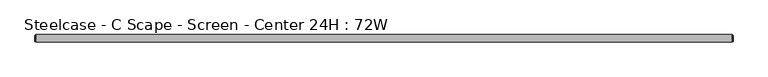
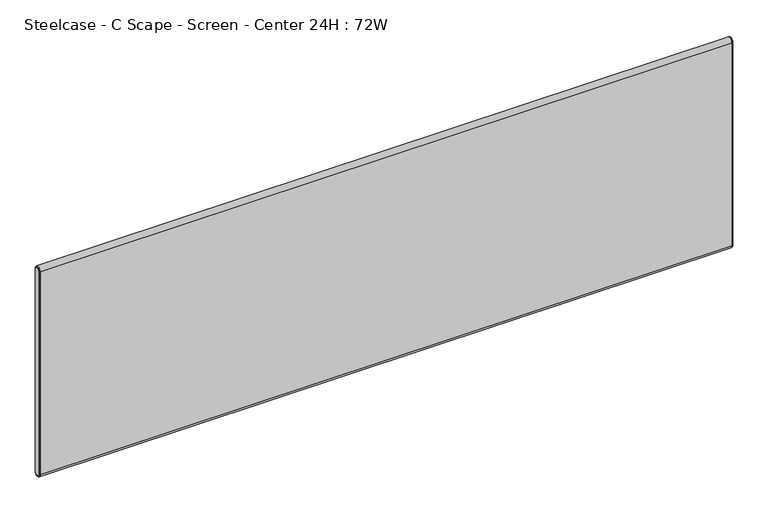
"""IFC4 building model written with IfcOpenShell, lengths in millimetres: furniture geometry, Steelcase - C Scape - Screen - Center 24H : 72W."""

from ifc_helpers import new_model, si_unit, point, frame, frame_2d, origin, place, context, project, spatial, polyline, circle_curve, ellipse_curve, trimmed, segment, composite_curve, outline, extrude, source, transform, mapped, element, save
from ifc_brep_helpers import plane_surface, cylinder_surface, revolved_surface, advanced_brep


def steelcase_c_scape_screen_center_24h_72w_7581a1cd(model_context):
    return source(origin(), model_context, "Body", "SolidModel", [
        advanced_brep(
        [(1825.2486613, -9.525, 1298.067), (1825.2486613, 9.525, 1298.067), (1825.2486613, 9.525, 732.9169758), (1825.2486613, -9.525, 732.9169758), (1828.0426613, 7.4929583, 1298.067), (1828.0426613, -7.4929583, 1298.067), (1828.0426613, -7.4929583, 732.9169758), (1828.0426613, 7.4929583, 732.9169758), (1827.5346545, -8.0009651, 1298.067), (1827.5346545, 8.0009651, 1298.067), (1826.2646613, 8.0009651, 1298.067), (1826.2646613, -8.0009651, 1298.067), (1826.2646613, -8.8204932, 1298.067), (1826.2646613, 8.8204932, 1298.067), (1826.2646613, -8.0009651, 732.9169758), (1827.5346545, -8.0009651, 732.9169758), (1826.2646613, -8.8204932, 732.9169758), (1826.2646613, 8.0009651, 732.9169758), (1827.5346545, 8.0009651, 732.9169758), (1826.2646613, 8.8204932, 732.9169758)],
        [
            (0, 1, circle_curve(frame((1825.2486613, 0.0, 1298.067), z_axis=(-1.0, 0.0, 0.0), x_axis=(0.0, 1.0, 0.0)), 9.525)),
            (1, 2),
            (2, 3, circle_curve(frame((1825.2486613, 0.0, 732.9169758), z_axis=(-1.0, 0.0, 0.0), x_axis=(0.0, -1.0, 0.0)), 9.525)),
            (3, 0),
            (4, 5, circle_curve(frame((1828.0426613, 0.0, 1298.067), z_axis=(1.0, 0.0, 0.0), x_axis=(0.0, 1.0, 0.0)), 7.4929583)),
            (5, 6),
            (6, 7, circle_curve(frame((1828.0426613, 0.0, 732.9169758), z_axis=(1.0, 0.0, 0.0), x_axis=(0.0, -1.0, 0.0)), 7.4929583)),
            (7, 4),
            (8, 9, circle_curve(frame((1827.5346545, 0.0, 1298.067), z_axis=(-1.0, 0.0, 0.0), x_axis=(0.0, 1.0, 0.0)), 8.0009651)),
            (9, 10),
            (10, 11, circle_curve(frame((1826.2646613, 0.0, 1298.067), z_axis=(1.0, 0.0, 0.0), x_axis=(0.0, 1.0, 0.0)), 8.0009651)),
            (11, 8),
            (8, 5, circle_curve(frame((1827.5346545, -7.4929583, 1298.067), z_axis=(0.0, 0.0, 1.0), x_axis=(0.0, -1.0, 0.0)), 0.5080068)),
            (4, 9, circle_curve(frame((1827.5346545, 7.4929583, 1298.067), z_axis=(0.0, 0.0, 1.0), x_axis=(0.0, 1.0, 0.0)), 0.5080068)),
            (12, 13, circle_curve(frame((1826.2646613, 0.0, 1298.067), z_axis=(-1.0, 0.0, 0.0), x_axis=(0.0, 1.0, 0.0)), 8.8204932)),
            (13, 1, circle_curve(frame((1825.1806211, 8.3420139, 1298.067), z_axis=(0.0, 0.0, 1.0), x_axis=(0.0, 1.0, 0.0)), 1.1849411)),
            (0, 12, circle_curve(frame((1825.1806211, -8.3420139, 1298.067), z_axis=(0.0, 0.0, 1.0), x_axis=(0.0, -1.0, 0.0)), 1.1849411)),
            (11, 14),
            (14, 15),
            (15, 8),
            (15, 6, circle_curve(frame((1827.5346545, -7.4929583, 732.9169758), z_axis=(0.0, 0.0, 1.0), x_axis=(0.0, -1.0, 0.0)), 0.5080068)),
            (3, 16, circle_curve(frame((1825.1806211, -8.3420139, 732.9169758), z_axis=(0.0, 0.0, 1.0), x_axis=(0.0, -1.0, 0.0)), 1.1849411)),
            (16, 12),
            (14, 17, circle_curve(frame((1826.2646613, 0.0, 732.9169758), z_axis=(1.0, 0.0, 0.0), x_axis=(0.0, -1.0, 0.0)), 8.0009651)),
            (17, 18),
            (18, 15, circle_curve(frame((1827.5346545, 0.0, 732.9169758), z_axis=(-1.0, 0.0, 0.0), x_axis=(0.0, -1.0, 0.0)), 8.0009651)),
            (18, 7, circle_curve(frame((1827.5346545, 7.4929583, 732.9169758), z_axis=(0.0, 0.0, -1.0), x_axis=(0.0, 1.0, 0.0)), 0.5080068)),
            (2, 19, circle_curve(frame((1825.1806211, 8.3420139, 732.9169758), z_axis=(0.0, 0.0, -1.0), x_axis=(0.0, 1.0, 0.0)), 1.1849411)),
            (19, 16, circle_curve(frame((1826.2646613, 0.0, 732.9169758), z_axis=(-1.0, 0.0, 0.0), x_axis=(0.0, -1.0, 0.0)), 8.8204932)),
            (9, 18),
            (17, 10),
            (13, 19),
        ],
        [
            plane_surface(frame((1825.2486613, -6.3509705, 1298.067), z_axis=(-1.0, 0.0, 0.0), x_axis=(0.0, 0.0, 1.0))),
            plane_surface(frame((1828.0426613, -6.3509705, 1298.067), z_axis=(1.0, 0.0, 0.0), x_axis=(0.0, 0.0, -1.0))),
            cylinder_surface(frame((1825.2486613, 0.0, 1298.067), z_axis=(1.0, 0.0, 0.0), x_axis=(0.0, 1.0, 0.0)), 8.0009651),
            revolved_surface(trimmed(ellipse_curve(frame((1827.5346545, 7.4929583, 1298.067), z_axis=(0.0, 0.0, -1.0), x_axis=(0.0, 1.0, 0.0)), 0.5080068, 0.5080068), [point((1827.5346545, 8.0009651, 1298.067))], [point((1828.0426613, 7.4929583, 1298.067))], True, "CARTESIAN"), (1825.2486613, 0.0, 1298.067), (1.0, 0.0, 0.0)),
            revolved_surface(trimmed(ellipse_curve(frame((1825.1806211, 8.3420139, 1298.067), z_axis=(0.0, 0.0, -1.0), x_axis=(0.0, 1.0, 0.0)), 1.1849411, 1.1849411), [point((1825.2486613, 9.525, 1298.067))], [point((1826.2646613, 8.8204932, 1298.067))], True, "CARTESIAN"), (1825.2486613, 0.0, 1298.067), (1.0, 0.0, 0.0)),
            plane_surface(frame((1826.2646613, -8.0009651, 1298.067), z_axis=(0.0, -1.0, 0.0), x_axis=(0.0, 0.0, -1.0))),
            cylinder_surface(frame((1827.5346545, -7.4929583, 1298.067), z_axis=(0.0, 0.0, 1.0), x_axis=(0.0, -1.0, 0.0)), 0.5080068),
            cylinder_surface(frame((1825.1806211, -8.3420139, 1298.067), z_axis=(0.0, 0.0, 1.0), x_axis=(0.0, -1.0, 0.0)), 1.1849411),
            cylinder_surface(frame((1825.2486613, 0.0, 732.9169758), z_axis=(1.0, 0.0, 0.0), x_axis=(0.0, -1.0, 0.0)), 8.0009651),
            revolved_surface(trimmed(ellipse_curve(frame((1827.5346545, -7.4929583, 732.9169758), z_axis=(0.0, 0.0, 1.0), x_axis=(0.0, -1.0, 0.0)), 0.5080068, 0.5080068), [point((1827.5346545, -8.0009651, 732.9169758))], [point((1828.0426613, -7.4929583, 732.9169758))], True, "CARTESIAN"), (1825.2486613, 0.0, 732.9169758), (1.0, 0.0, 0.0)),
            revolved_surface(trimmed(ellipse_curve(frame((1825.1806211, -8.3420139, 732.9169758), z_axis=(0.0, 0.0, 1.0), x_axis=(0.0, -1.0, 0.0)), 1.1849411, 1.1849411), [point((1825.2486613, -9.525, 732.9169758))], [point((1826.2646613, -8.8204932, 732.9169758))], True, "CARTESIAN"), (1825.2486613, 0.0, 732.9169758), (1.0, 0.0, 0.0)),
            plane_surface(frame((1826.2646613, 8.0009651, 732.9169758), z_axis=(0.0, 1.0, 0.0), x_axis=(0.0, 0.0, 1.0))),
            cylinder_surface(frame((1827.5346545, 7.4929583, 732.9169758), z_axis=(0.0, 0.0, -1.0), x_axis=(0.0, 1.0, 0.0)), 0.5080068),
            cylinder_surface(frame((1825.1806211, 8.3420139, 732.9169758), z_axis=(0.0, 0.0, -1.0), x_axis=(0.0, 1.0, 0.0)), 1.1849411),
            plane_surface(frame((1826.2646613, 8.8204932, 732.9169758), z_axis=(1.0, 0.0, 0.0), x_axis=(0.0, 0.0, 1.0))),
        ],
        [
            (0, [[1, 2, 3, 4]]),
            (1, [[5, 6, 7, 8]]),
            (2, [[9, 10, 11, 12]]),
            (3, [[-9, 13, -5, 14]]),
            (4, [[15, 16, -1, 17]]),
            (5, [[-12, 18, 19, 20]]),
            (6, [[-13, -20, 21, -6]]),
            (7, [[-17, -4, 22, 23]]),
            (8, [[-19, 24, 25, 26]]),
            (9, [[-21, -26, 27, -7]]),
            (10, [[-22, -3, 28, 29]]),
            (11, [[-10, 30, -25, 31]]),
            (12, [[-14, -8, -27, -30]]),
            (13, [[-16, 32, -28, -2]]),
            (14, [[-15, -23, -29, -32], [-11, -31, -24, -18]]),
        ],
    ),
        advanced_brep(
        [(2.7940155, 9.525, 1298.067), (2.7940155, -9.525, 1298.067), (2.7940155, -9.525, 732.917), (2.7940155, 9.525, 732.917), (0.0, -7.4929583, 1298.067), (0.0, 7.4929583, 1298.067), (0.0, 7.4929583, 732.917), (0.0, -7.4929583, 732.917), (1.778, 8.8204932, 1298.067), (1.778, -8.8204932, 1298.067), (0.5080068, -8.0009651, 1298.067), (0.5080068, 8.0009651, 1298.067), (1.778, -8.0009651, 1298.067), (1.778, 8.0009651, 1298.067), (1.778, -8.8204932, 732.917), (0.5080068, -8.0009651, 732.917), (1.778, -8.0009651, 732.917), (1.778, 8.8204932, 732.917), (0.5080068, 8.0009651, 732.917), (1.778, 8.0009651, 732.917)],
        [
            (0, 1, circle_curve(frame((2.7940155, 0.0, 1298.067), z_axis=(1.0, 0.0, 0.0), x_axis=(0.0, 1.0, 0.0)), 9.525)),
            (1, 2),
            (2, 3, circle_curve(frame((2.7940155, 0.0, 732.917), z_axis=(1.0, 0.0, 0.0), x_axis=(0.0, -1.0, 0.0)), 9.525)),
            (3, 0),
            (4, 5, circle_curve(frame((0.0, 0.0, 1298.067), z_axis=(-1.0, 0.0, 0.0), x_axis=(0.0, 1.0, 0.0)), 7.4929583)),
            (5, 6),
            (6, 7, circle_curve(frame((0.0, 0.0, 732.917), z_axis=(-1.0, 0.0, 0.0), x_axis=(0.0, -1.0, 0.0)), 7.4929583)),
            (7, 4),
            (0, 8, circle_curve(frame((2.8620402, 8.3420139, 1298.067), z_axis=(0.0, 0.0, 1.0), x_axis=(0.0, -1.0, 0.0)), 1.1849411)),
            (8, 9, circle_curve(frame((1.778, 0.0, 1298.067), z_axis=(1.0, 0.0, 0.0), x_axis=(0.0, 1.0, 0.0)), 8.8204932)),
            (9, 1, circle_curve(frame((2.8620402, -8.3420139, 1298.067), z_axis=(0.0, 0.0, 1.0), x_axis=(0.0, 1.0, 0.0)), 1.1849411)),
            (10, 11, circle_curve(frame((0.5080068, 0.0, 1298.067), z_axis=(-1.0, 0.0, 0.0), x_axis=(0.0, 1.0, 0.0)), 8.0009651)),
            (11, 5, circle_curve(frame((0.5080068, 7.4929583, 1298.067), z_axis=(0.0, 0.0, 1.0), x_axis=(0.0, -1.0, 0.0)), 0.5080068)),
            (4, 10, circle_curve(frame((0.5080068, -7.4929583, 1298.067), z_axis=(0.0, 0.0, 1.0), x_axis=(0.0, 1.0, 0.0)), 0.5080068)),
            (10, 12),
            (12, 13, circle_curve(frame((1.778, 0.0, 1298.067), z_axis=(-1.0, 0.0, 0.0), x_axis=(0.0, 1.0, 0.0)), 8.0009651)),
            (13, 11),
            (9, 14),
            (14, 2, circle_curve(frame((2.8620402, -8.3420139, 732.917), z_axis=(0.0, 0.0, 1.0), x_axis=(0.0, 1.0, 0.0)), 1.1849411)),
            (7, 15, circle_curve(frame((0.5080068, -7.4929583, 732.917), z_axis=(0.0, 0.0, 1.0), x_axis=(0.0, 1.0, 0.0)), 0.5080068)),
            (15, 10),
            (15, 16),
            (16, 12),
            (14, 17, circle_curve(frame((1.778, 0.0, 732.917), z_axis=(1.0, 0.0, 0.0), x_axis=(0.0, -1.0, 0.0)), 8.8204932)),
            (17, 3, circle_curve(frame((2.8620402, 8.3420139, 732.917), z_axis=(0.0, 0.0, -1.0), x_axis=(0.0, -1.0, 0.0)), 1.1849411)),
            (6, 18, circle_curve(frame((0.5080068, 7.4929583, 732.917), z_axis=(0.0, 0.0, -1.0), x_axis=(0.0, -1.0, 0.0)), 0.5080068)),
            (18, 15, circle_curve(frame((0.5080068, 0.0, 732.917), z_axis=(-1.0, 0.0, 0.0), x_axis=(0.0, -1.0, 0.0)), 8.0009651)),
            (18, 19),
            (19, 16, circle_curve(frame((1.778, 0.0, 732.917), z_axis=(-1.0, 0.0, 0.0), x_axis=(0.0, -1.0, 0.0)), 8.0009651)),
            (8, 17),
            (19, 13),
            (11, 18),
        ],
        [
            plane_surface(frame((2.7940155, -6.3509705, 1298.067), z_axis=(1.0, 0.0, 0.0), x_axis=(0.0, 0.0, -1.0))),
            plane_surface(frame((0.0, -6.3509705, 1298.067), z_axis=(-1.0, 0.0, 0.0), x_axis=(0.0, 0.0, 1.0))),
            revolved_surface(trimmed(ellipse_curve(frame((2.8620402, 8.3420139, 1298.067), z_axis=(0.0, 0.0, -1.0), x_axis=(0.0, -1.0, 0.0)), 1.1849411, 1.1849411), [point((1.778, 8.8204932, 1298.067))], [point((2.794, 9.525, 1298.067))], True, "CARTESIAN"), (2.794, 0.0, 1298.067), (1.0, 0.0, 0.0)),
            revolved_surface(trimmed(ellipse_curve(frame((0.5080068, 7.4929583, 1298.067), z_axis=(0.0, 0.0, -1.0), x_axis=(0.0, -1.0, 0.0)), 0.5080068, 0.5080068), [point((0.0, 7.4929583, 1298.067))], [point((0.5080068, 8.0009651, 1298.067))], True, "CARTESIAN"), (2.794, 0.0, 1298.067), (1.0, 0.0, 0.0)),
            cylinder_surface(frame((2.794, 0.0, 1298.067), z_axis=(1.0, 0.0, 0.0), x_axis=(0.0, 1.0, 0.0)), 8.0009651),
            cylinder_surface(frame((2.8620402, -8.3420139, 1298.067), z_axis=(0.0, 0.0, 1.0), x_axis=(0.0, 1.0, 0.0)), 1.1849411),
            cylinder_surface(frame((0.5080068, -7.4929583, 1298.067), z_axis=(0.0, 0.0, 1.0), x_axis=(0.0, 1.0, 0.0)), 0.5080068),
            plane_surface(frame((0.5080068, -8.0009651, 1298.067), z_axis=(0.0, -1.0, 0.0), x_axis=(0.0, 0.0, -1.0))),
            revolved_surface(trimmed(ellipse_curve(frame((2.8620402, -8.3420139, 732.917), z_axis=(0.0, 0.0, 1.0), x_axis=(0.0, 1.0, 0.0)), 1.1849411, 1.1849411), [point((1.778, -8.8204932, 732.917))], [point((2.794, -9.525, 732.917))], True, "CARTESIAN"), (2.794, 0.0, 732.917), (1.0, 0.0, 0.0)),
            revolved_surface(trimmed(ellipse_curve(frame((0.5080068, -7.4929583, 732.917), z_axis=(0.0, 0.0, 1.0), x_axis=(0.0, 1.0, 0.0)), 0.5080068, 0.5080068), [point((0.0, -7.4929583, 732.917))], [point((0.5080068, -8.0009651, 732.917))], True, "CARTESIAN"), (2.794, 0.0, 732.917), (1.0, 0.0, 0.0)),
            cylinder_surface(frame((2.794, 0.0, 732.917), z_axis=(1.0, 0.0, 0.0), x_axis=(0.0, -1.0, 0.0)), 8.0009651),
            plane_surface(frame((1.778, 8.0009651, 732.917), z_axis=(-1.0, 0.0, 0.0), x_axis=(0.0, 0.0, 1.0))),
            cylinder_surface(frame((2.8620402, 8.3420139, 732.917), z_axis=(0.0, 0.0, -1.0), x_axis=(0.0, -1.0, 0.0)), 1.1849411),
            cylinder_surface(frame((0.5080068, 7.4929583, 732.917), z_axis=(0.0, 0.0, -1.0), x_axis=(0.0, -1.0, 0.0)), 0.5080068),
            plane_surface(frame((0.5080068, 8.0009651, 732.917), z_axis=(0.0, 1.0, 0.0), x_axis=(0.0, 0.0, 1.0))),
        ],
        [
            (0, [[1, 2, 3, 4]]),
            (1, [[5, 6, 7, 8]]),
            (2, [[-1, 9, 10, 11]]),
            (3, [[12, 13, -5, 14]]),
            (4, [[-12, 15, 16, 17]]),
            (5, [[-11, 18, 19, -2]]),
            (6, [[-14, -8, 20, 21]]),
            (7, [[-15, -21, 22, 23]]),
            (8, [[-19, 24, 25, -3]]),
            (9, [[-20, -7, 26, 27]]),
            (10, [[-22, -27, 28, 29]]),
            (11, [[-10, 30, -24, -18], [-16, -23, -29, 31]]),
            (12, [[-9, -4, -25, -30]]),
            (13, [[-13, 32, -26, -6]]),
            (14, [[-17, -31, -28, -32]]),
        ],
    ),
        extrude(outline(composite_curve([segment(trimmed(circle_curve(frame_2d((0.0, 1298.067)), 9.525), [point((-9.525, 1298.067))], [point((9.525, 1298.067))], False, "CARTESIAN"), True, "CONTINUOUS"), segment(polyline([(9.525, 1298.067), (9.525, 732.917)]), True, "CONTINUOUS"), segment(trimmed(circle_curve(frame_2d((0.0, 732.917)), 9.525), [point((9.525, 732.917))], [point((-9.525, 732.917))], False, "CARTESIAN"), True, "CONTINUOUS"), segment(polyline([(-9.525, 732.917), (-9.525, 1298.067)]), True, "CONTINUOUS")], self_intersect=False)), frame((2.794, 0.0, 0.0), z_axis=(1.0, 0.0, 0.0), x_axis=(0.0, 1.0, 0.0)), (0.0, 0.0, 1.0), 1822.4546613),
    ])


if __name__ == "__main__":
    model = new_model("IFC4")
    model_context = context("Model", 3, world=origin())
    ifc_project = project(units=[si_unit("LENGTHUNIT", "METRE", prefix="MILLI")], contexts=[model_context])
    site = spatial("IfcSite", under=ifc_project)
    building = spatial("IfcBuilding", under=site)
    placement = place(None, origin())
    steelcase_c_scape_screen_center_24h_72w_shape = steelcase_c_scape_screen_center_24h_72w_7581a1cd(model_context)
    element("IfcFurniture", 1, ObjectType="Steelcase - C Scape - Screen - Center 24H : 72W", at=placement, inside=building, context=model_context, shape_type="MappedRepresentation", body=[
        mapped(steelcase_c_scape_screen_center_24h_72w_shape, transform((0.0, 0.0, 0.0), x_axis=(1.0, 0.0, 0.0), y_axis=(0.0, 1.0, 0.0), z_axis=(0.0, 0.0, 1.0))),
    ])
    save(model, "model.ifc")
